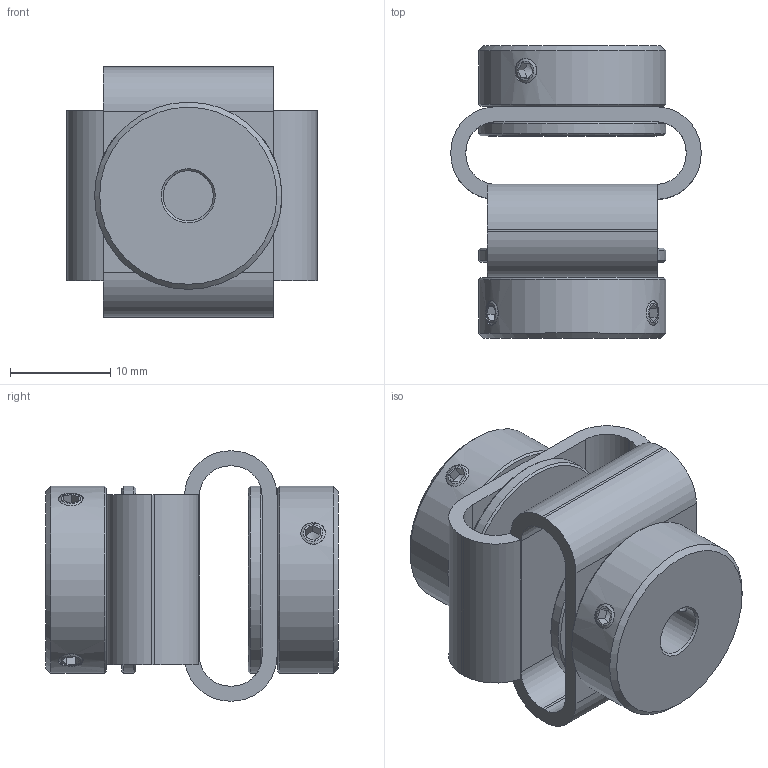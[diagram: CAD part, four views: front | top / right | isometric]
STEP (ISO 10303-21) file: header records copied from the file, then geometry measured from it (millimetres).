
FILE_DESCRIPTION(/* description */ (''),/* implementation_level */ '2;1');
FILE_NAME(/* name */ 'Z:\ABP-Antriebstechnik\Entwicklung-3D\Paguflex\DKPS 2928 04 05.stp',/* time_stamp */ '2017-06-30T07:56:57+02:00',/* author */ ('werner.boesinger'),/* organization */ (''),/* preprocessor_version */ 'ST-DEVELOPER v16.1',/* originating_system */ 'Autodesk Inventor 2016',/* authorisation */ '');
FILE_SCHEMA (('AUTOMOTIVE_DESIGN { 1 0 10303 214 3 1 1 }'));
Length unit declared in the file: millimetre
Products named in the file (1): DKPS 2928 04 05
Bounding box: 25 x 29.2 x 25 mm (x, y, z)
Volume: 6096.2 mm3; surface area: 5414.8 mm2
Topology: 1 solids, 3 shells, 154 faces, 369 edges, 228 vertices
Faces by surface type: plane 90, cylinder 36, cone 28
Full cylindrical faces by diameter (mm): 2.459 x8, 4 x1, 5 x1, 12.5 x2, 14 x4, 18.7 x4
Entity records: 4367 total; most frequent: CARTESIAN_POINT 961, DIRECTION 694, ORIENTED_EDGE 572, EDGE_CURVE 286, AXIS2_PLACEMENT_3D 273, EDGE_LOOP 220, VERTEX_POINT 192, STYLED_ITEM 155
